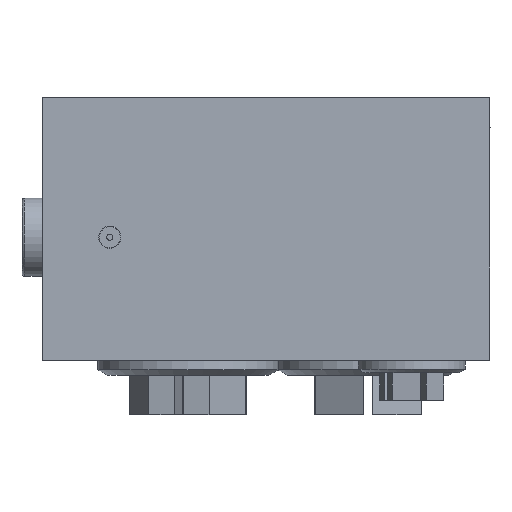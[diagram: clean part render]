
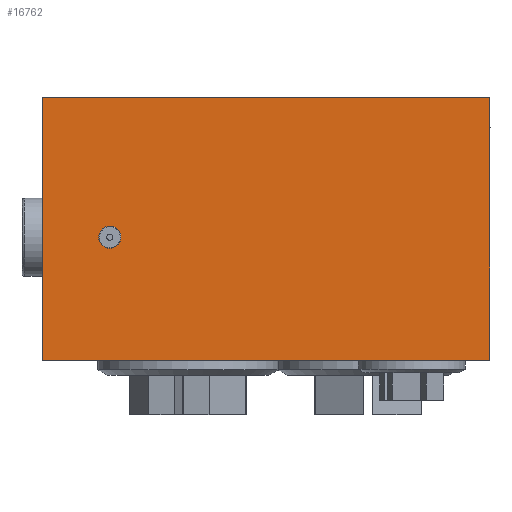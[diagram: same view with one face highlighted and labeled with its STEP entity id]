
A CAD part, left-side view. The second image highlights one B-rep face of the part: STEP entity #16762.
In plain terms, the highlighted planar face has unit normal (-1, 0, 0).
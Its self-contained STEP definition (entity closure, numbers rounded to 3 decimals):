
#62 = VECTOR ( 'NONE', #22741, 1000. ) ;
#240 = EDGE_CURVE ( 'NONE', #1489, #3927, #21895, .T. ) ;
#333 = DIRECTION ( 'NONE',  ( -1., 0., 0. ) ) ;
#755 = VECTOR ( 'NONE', #13115, 1000. ) ;
#1489 = VERTEX_POINT ( 'NONE', #14398 ) ;
#2137 = ORIENTED_EDGE ( 'NONE', *, *, #9495, .T. ) ;
#2354 = VECTOR ( 'NONE', #19114, 1000. ) ;
#2457 = EDGE_LOOP ( 'NONE', ( #8287 ) ) ;
#3215 = ORIENTED_EDGE ( 'NONE', *, *, #240, .F. ) ;
#3784 = PLANE ( 'NONE',  #19531 ) ;
#3927 = VERTEX_POINT ( 'NONE', #6902 ) ;
#4684 = EDGE_CURVE ( 'NONE', #19597, #1489, #19456, .T. ) ;
#5191 = ORIENTED_EDGE ( 'NONE', *, *, #4684, .F. ) ;
#5392 = VERTEX_POINT ( 'NONE', #9961 ) ;
#5805 = CARTESIAN_POINT ( 'NONE',  ( -136., 0., -47. ) ) ;
#6152 = CARTESIAN_POINT ( 'NONE',  ( -136., 0., 0. ) ) ;
#6902 = CARTESIAN_POINT ( 'NONE',  ( -136., -80., 0. ) ) ;
#7182 = CARTESIAN_POINT ( 'NONE',  ( -136., 0., -47. ) ) ;
#8287 = ORIENTED_EDGE ( 'NONE', *, *, #13391, .F. ) ;
#9495 = EDGE_CURVE ( 'NONE', #19597, #5392, #15694, .T. ) ;
#9681 = EDGE_CURVE ( 'NONE', #5392, #3927, #22024, .T. ) ;
#9961 = CARTESIAN_POINT ( 'NONE',  ( -136., -80., -47. ) ) ;
#10323 = CARTESIAN_POINT ( 'NONE',  ( -136., 0., -47. ) ) ;
#10409 = VECTOR ( 'NONE', #13248, 1000. ) ;
#10635 = AXIS2_PLACEMENT_3D ( 'NONE', #14729, #12896, #18089 ) ;
#11514 = VERTEX_POINT ( 'NONE', #16582 ) ;
#12500 = EDGE_LOOP ( 'NONE', ( #3215, #5191, #2137, #21251 ) ) ;
#12896 = DIRECTION ( 'NONE',  ( -1., 0., 0. ) ) ;
#13115 = DIRECTION ( 'NONE',  ( 0., -1., 0. ) ) ;
#13248 = DIRECTION ( 'NONE',  ( 0., 0., 1. ) ) ;
#13391 = EDGE_CURVE ( 'NONE', #11514, #11514, #20543, .T. ) ;
#14091 = FACE_BOUND ( 'NONE', #2457, .T. ) ;
#14398 = CARTESIAN_POINT ( 'NONE',  ( -136., 0., 0. ) ) ;
#14729 = CARTESIAN_POINT ( 'NONE',  ( -136., -12., -25. ) ) ;
#15694 = LINE ( 'NONE', #20656, #62 ) ;
#16582 = CARTESIAN_POINT ( 'NONE',  ( -136., -12., -23. ) ) ;
#16762 = ADVANCED_FACE ( 'NONE', ( #14091, #21018 ), #3784, .T. ) ;
#18089 = DIRECTION ( 'NONE',  ( 0., 0., 1. ) ) ;
#19114 = DIRECTION ( 'NONE',  ( 0., 0., 1. ) ) ;
#19456 = LINE ( 'NONE', #7182, #2354 ) ;
#19531 = AXIS2_PLACEMENT_3D ( 'NONE', #10323, #333, #22647 ) ;
#19597 = VERTEX_POINT ( 'NONE', #5805 ) ;
#20543 = CIRCLE ( 'NONE', #10635, 2. ) ;
#20656 = CARTESIAN_POINT ( 'NONE',  ( -136., 0., -47. ) ) ;
#21018 = FACE_OUTER_BOUND ( 'NONE', #12500, .T. ) ;
#21251 = ORIENTED_EDGE ( 'NONE', *, *, #9681, .T. ) ;
#21895 = LINE ( 'NONE', #6152, #755 ) ;
#21915 = CARTESIAN_POINT ( 'NONE',  ( -136., -80., -47. ) ) ;
#22024 = LINE ( 'NONE', #21915, #10409 ) ;
#22647 = DIRECTION ( 'NONE',  ( 0., 0., 1. ) ) ;
#22741 = DIRECTION ( 'NONE',  ( 0., -1., 0. ) ) ;
